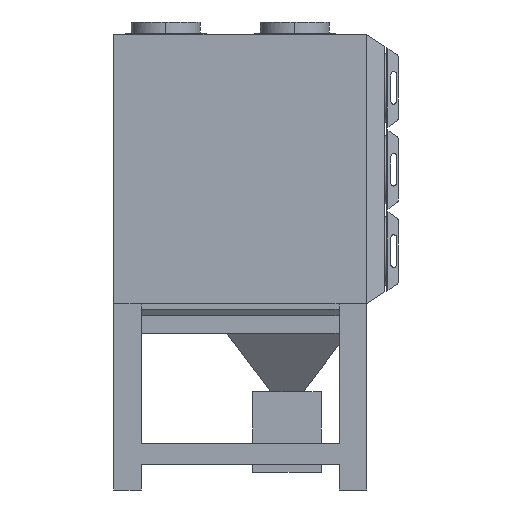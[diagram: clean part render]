
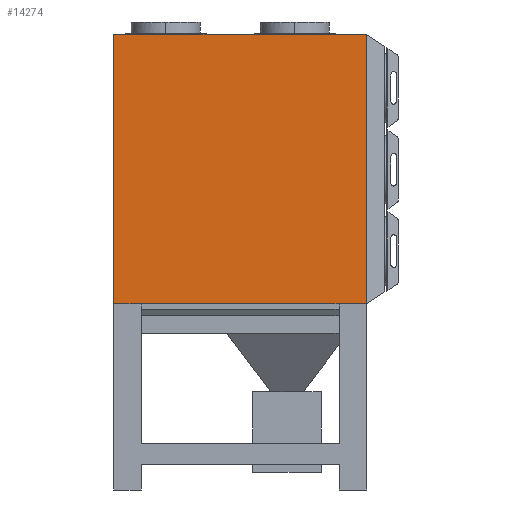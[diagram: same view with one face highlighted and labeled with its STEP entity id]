
A CAD part, left-side view. The second image highlights one B-rep face of the part: STEP entity #14274.
In plain terms, the highlighted free-form (B-spline) face has degree [3, 3] with [4, 4] control points.
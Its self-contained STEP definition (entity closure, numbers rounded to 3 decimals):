
#1353=ORIENTED_EDGE('trim curve',*,*,#2447,.F.);
#1354=ORIENTED_EDGE('trim curve',*,*,#2189,.T.);
#1355=ORIENTED_EDGE('trim curve',*,*,#2086,.T.);
#1356=ORIENTED_EDGE('trim curve',*,*,#2188,.T.);
#1357=ORIENTED_EDGE('trim curve',*,*,#2441,.T.);
#1358=ORIENTED_EDGE('trim curve',*,*,#2445,.F.);
#1567=VERTEX_POINT('Trimming Point',#7907);
#1569=VERTEX_POINT('Trimming Point',#7911);
#1626=VERTEX_POINT('Trimming Point',#8592);
#1629=VERTEX_POINT('Trimming Point',#8671);
#1787=VERTEX_POINT('Trimming Point',#13651);
#1789=VERTEX_POINT('Trimming Point',#13695);
#2086=EDGE_CURVE('Edge Curve',#1569,#1567,#2744,.T.);
#2188=EDGE_CURVE('Edge Curve',#1567,#1626,#2846,.T.);
#2189=EDGE_CURVE('Edge Curve',#1629,#1569,#2847,.T.);
#2441=EDGE_CURVE('Edge Curve',#1626,#1787,#3099,.T.);
#2445=EDGE_CURVE('Edge Curve',#1789,#1787,#3103,.T.);
#2447=EDGE_CURVE('Edge Curve',#1629,#1789,#3105,.T.);
#2744=(
BOUNDED_CURVE()
B_SPLINE_CURVE(3,(#7911,#7912,#7913,#7914),.UNSPECIFIED.,.U.,.U.)
B_SPLINE_CURVE_WITH_KNOTS((4,4),(0.,0.973),.UNSPECIFIED.)
CURVE()
GEOMETRIC_REPRESENTATION_ITEM()
RATIONAL_B_SPLINE_CURVE((1.,1.,1.,1.))
REPRESENTATION_ITEM('node')
);
#2846=(
BOUNDED_CURVE()
B_SPLINE_CURVE(3,(#8698,#8699,#8700,#8701),.UNSPECIFIED.,.U.,.U.)
B_SPLINE_CURVE_WITH_KNOTS((4,4),(0.,0.109),.UNSPECIFIED.)
CURVE()
GEOMETRIC_REPRESENTATION_ITEM()
RATIONAL_B_SPLINE_CURVE((1.,1.,1.,1.))
REPRESENTATION_ITEM('node')
);
#2847=(
BOUNDED_CURVE()
B_SPLINE_CURVE(3,(#8702,#8703,#8704,#8705),.UNSPECIFIED.,.U.,.U.)
B_SPLINE_CURVE_WITH_KNOTS((4,4),(0.,0.109),.UNSPECIFIED.)
CURVE()
GEOMETRIC_REPRESENTATION_ITEM()
RATIONAL_B_SPLINE_CURVE((1.,1.,1.,1.))
REPRESENTATION_ITEM('node')
);
#3099=(
BOUNDED_CURVE()
B_SPLINE_CURVE(1,(#13668,#13669),.UNSPECIFIED.,.U.,.U.)
B_SPLINE_CURVE_WITH_KNOTS((2,2),(0.,156.7),.UNSPECIFIED.)
CURVE()
GEOMETRIC_REPRESENTATION_ITEM()
RATIONAL_B_SPLINE_CURVE((1.,1.))
REPRESENTATION_ITEM('node')
);
#3103=(
BOUNDED_CURVE()
B_SPLINE_CURVE(3,(#13696,#13697,#13698,#13699),.UNSPECIFIED.,.U.,.U.)
B_SPLINE_CURVE_WITH_KNOTS((4,4),(0.,1.),.UNSPECIFIED.)
CURVE()
GEOMETRIC_REPRESENTATION_ITEM()
RATIONAL_B_SPLINE_CURVE((1.,1.,1.,1.))
REPRESENTATION_ITEM('node')
);
#3105=(
BOUNDED_CURVE()
B_SPLINE_CURVE(3,(#13736,#13737,#13738,#13739),.UNSPECIFIED.,.U.,.U.)
B_SPLINE_CURVE_WITH_KNOTS((4,4),(0.,0.719),.UNSPECIFIED.)
CURVE()
GEOMETRIC_REPRESENTATION_ITEM()
RATIONAL_B_SPLINE_CURVE((1.,1.,1.,1.))
REPRESENTATION_ITEM('node')
);
#3379=EDGE_LOOP('trim boundary',(#1353,#1354,#1355,#1356,#1357,#1358));
#3623=FACE_OUTER_BOUND('Boundary Edges',#3379,.T.);
#7907=CARTESIAN_POINT('CVs',(-3370.772,-292.024,1082.));
#7911=CARTESIAN_POINT('CVs',(-3370.772,857.976,1082.));
#7912=CARTESIAN_POINT('CVs',(-3370.772,474.642,1082.));
#7913=CARTESIAN_POINT('CVs',(-3370.772,91.309,1082.));
#7914=CARTESIAN_POINT('CVs',(-3370.772,-292.024,1082.));
#8592=CARTESIAN_POINT('CVs',(-3370.772,-452.024,1082.));
#8671=CARTESIAN_POINT('CVs',(-3370.772,1017.976,1082.));
#8698=CARTESIAN_POINT('CVs',(-3370.772,-292.024,1082.));
#8699=CARTESIAN_POINT('CVs',(-3370.772,-345.358,1082.));
#8700=CARTESIAN_POINT('CVs',(-3370.772,-398.691,1082.));
#8701=CARTESIAN_POINT('CVs',(-3370.772,-452.024,1082.));
#8702=CARTESIAN_POINT('CVs',(-3370.772,1017.976,1082.));
#8703=CARTESIAN_POINT('CVs',(-3370.772,964.642,1082.));
#8704=CARTESIAN_POINT('CVs',(-3370.772,911.309,1082.));
#8705=CARTESIAN_POINT('CVs',(-3370.772,857.976,1082.));
#13651=CARTESIAN_POINT('CVs',(-3370.772,-452.024,2649.));
#13668=CARTESIAN_POINT('CVs',(-3370.772,-452.024,1082.));
#13669=CARTESIAN_POINT('CVs',(-3370.772,-452.024,2649.));
#13695=CARTESIAN_POINT('CVs',(-3370.772,1017.976,2649.));
#13696=CARTESIAN_POINT('CVs',(-3370.772,1017.976,2649.));
#13697=CARTESIAN_POINT('CVs',(-3370.772,527.976,2649.));
#13698=CARTESIAN_POINT('CVs',(-3370.772,37.976,2649.));
#13699=CARTESIAN_POINT('CVs',(-3370.772,-452.024,2649.));
#13736=CARTESIAN_POINT('CVs',(-3370.772,1017.976,1082.));
#13737=CARTESIAN_POINT('CVs',(-3370.772,1017.976,1604.333));
#13738=CARTESIAN_POINT('CVs',(-3370.772,1017.976,2126.667));
#13739=CARTESIAN_POINT('CVs',(-3370.772,1017.976,2649.));
#13756=CARTESIAN_POINT('CVs',(-3370.772,-452.024,1082.));
#13757=CARTESIAN_POINT('CVs',(-3370.772,37.976,1082.));
#13758=CARTESIAN_POINT('CVs',(-3370.772,527.976,1082.));
#13759=CARTESIAN_POINT('CVs',(-3370.772,1017.976,1082.));
#13760=CARTESIAN_POINT('CVs',(-3370.772,-452.024,1808.667));
#13761=CARTESIAN_POINT('CVs',(-3370.772,37.976,1808.667));
#13762=CARTESIAN_POINT('CVs',(-3370.772,527.976,1808.667));
#13763=CARTESIAN_POINT('CVs',(-3370.772,1017.976,1808.667));
#13764=CARTESIAN_POINT('CVs',(-3370.772,-452.024,2535.333));
#13765=CARTESIAN_POINT('CVs',(-3370.772,37.976,2535.333));
#13766=CARTESIAN_POINT('CVs',(-3370.772,527.976,2535.333));
#13767=CARTESIAN_POINT('CVs',(-3370.772,1017.976,2535.333));
#13768=CARTESIAN_POINT('CVs',(-3370.772,-452.024,3262.));
#13769=CARTESIAN_POINT('CVs',(-3370.772,37.976,3262.));
#13770=CARTESIAN_POINT('CVs',(-3370.772,527.976,3262.));
#13771=CARTESIAN_POINT('CVs',(-3370.772,1017.976,3262.));
#14030=(
BOUNDED_SURFACE()
B_SPLINE_SURFACE(3,3,((#13756,#13757,#13758,#13759),(#13760,#13761,#13762,
#13763),(#13764,#13765,#13766,#13767),(#13768,#13769,#13770,#13771)),.UNSPECIFIED.,
 .U.,.U.,.U.)
B_SPLINE_SURFACE_WITH_KNOTS((4,4),(4,4),(0.,1.),(0.,1.),.UNSPECIFIED.)
GEOMETRIC_REPRESENTATION_ITEM()
RATIONAL_B_SPLINE_SURFACE(((1.,1.,1.,1.),(1.,1.,1.,1.),(1.,1.,1.,1.),(1.,
1.,1.,1.)))
REPRESENTATION_ITEM('trim region')
SURFACE()
);
#14274=ADVANCED_FACE('trim region',(#3623),#14030,.T.);
